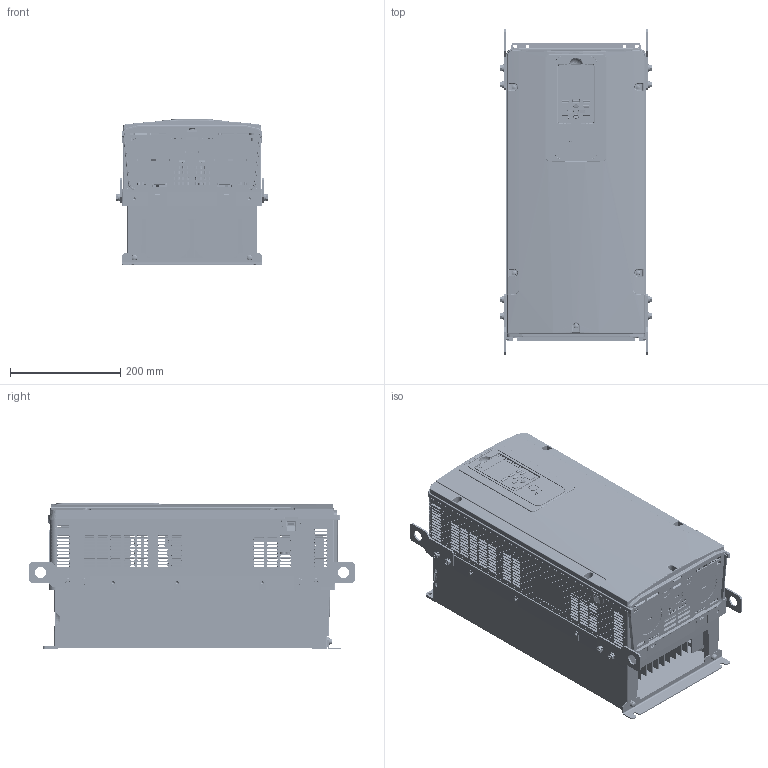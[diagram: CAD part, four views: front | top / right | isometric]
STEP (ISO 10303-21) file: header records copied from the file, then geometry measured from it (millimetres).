
FILE_DESCRIPTION((''),'2;1');
FILE_NAME('SM_HV60_FR4_T1','2020-02-19T',('jmattas'),(''),'PRO/ENGINEER BY PARAMETRIC TECHNOLOGY CORPORATION, 2015110','PRO/ENGINEER BY PARAMETRIC TECHNOLOGY CORPORATION, 2015110','');
FILE_SCHEMA(('CONFIG_CONTROL_DESIGN'));
Products named in the file (7): SM_HV60_FR4_T1_BASE; SM_HV60_FR4_T1_COVER1; SM_HV60_FR4_T1_KEYPAD; SM_HV60_FR4_T1_COVER2; SM_HV60_FR4_T1_COVER3; SM_HV60_FR4_T1_BRACKET1; SM_HV60_FR4_T1
Assembly tree (6 placements, depth 2):
  SM_HV60_FR4_T1
    SM_HV60_FR4_T1_BASE
    SM_HV60_FR4_T1_COVER1
    SM_HV60_FR4_T1_KEYPAD
    SM_HV60_FR4_T1_COVER2
    SM_HV60_FR4_T1_COVER3
    SM_HV60_FR4_T1_BRACKET1
Bounding box: 275.2 x 590 x 264.55 mm (x, y, z)
Volume: 5599681.2 mm3; surface area: 2647864.2 mm2
Topology: 6 solids, 10 shells, 9873 faces, 27734 edges, 17772 vertices
Faces by surface type: plane 5800, cylinder 2166, cone 1311, bspline 352, torus 132, sphere 107, extrusion 5
Entity records: 364923 total; most frequent: CARTESIAN_POINT 112928, ORIENTED_EDGE 55288, DIRECTION 48547, EDGE_CURVE 27644, VECTOR 18683, LINE 18678, VERTEX_POINT 17772, AXIS2_PLACEMENT_3D 14932
